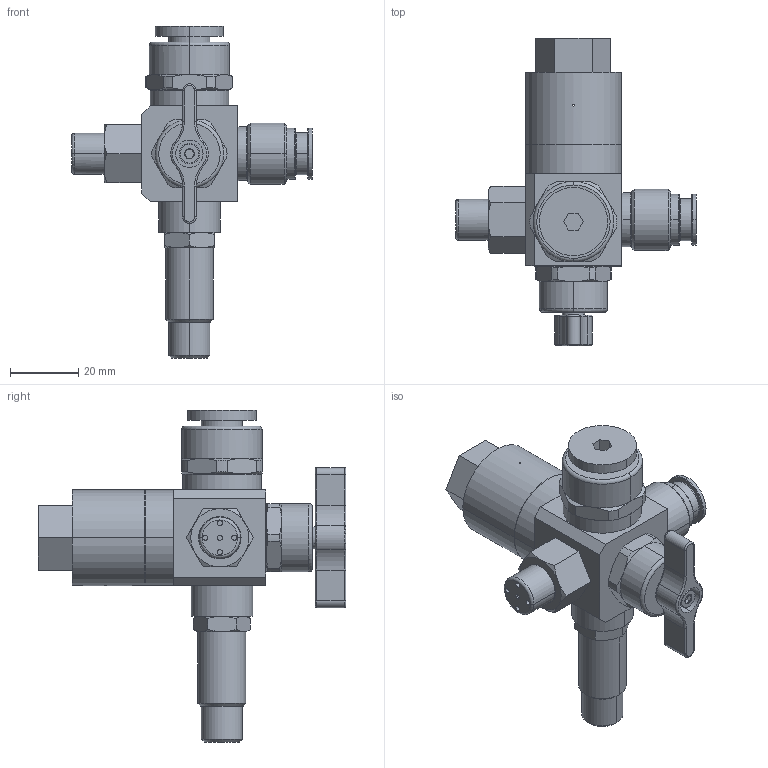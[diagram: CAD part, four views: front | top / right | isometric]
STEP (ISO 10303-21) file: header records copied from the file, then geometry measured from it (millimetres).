
FILE_DESCRIPTION((''),'2;1');
FILE_NAME('19L0001_ASM_ASM','2024-06-26T17:38:39',('hanqing'),(''),'CREO PARAMETRIC BY PTC INC, 2020033','CREO PARAMETRIC BY PTC INC, 2020033','');
FILE_SCHEMA(('CONFIG_CONTROL_DESIGN'));
Length unit declared in the file: millimetre
Products named in the file (32): 000_11_1_1; 0002_9_1_1; 020002_9_1_1; 0005_9_1_1; 0007_9_1_1; DUSAICHONGQI_9_1_1; ORING000_9_1_1_1; ORING000_9_2_1_1; ORING000_9_ASM_1_ASM_1_ASM; 020001_ASM_9_ASM_1_ASM_1_ASM; HJYF35-010003_9_1_1; 0009_ASM_10_ASM_1_1; HJYF35-01000_ASM_10_ASM_1_ASM_1_ASM; NEW00_9_1_1; TPRD00_ASM_9_ASM_1_ASM_1_ASM; 0013_9_1_1; 0014_9_1_1; 0015_9_1_1; OXINGQUAN000_9_ASM_1_1; 10001_10_1_1; QJ2582-M3-10_9_1_1; 3_QJ2963_2-97_9_1_1; 3_GB-T848_9_1_1; M30001_ASM_9_ASM_1_ASM_1_ASM; 0012_ASM_9_ASM_1_ASM_1_ASM; OXINGQUAN00_9_ASM_1_1; 0018_ASM_9_ASM_1_ASM_1_ASM; 0-0_ASM_10_ASM_1_ASM_1_ASM; DCFDUIWAIMOXING_ASM_1_ASM_1_ASM; DANCHEPINGFADUIWAIMOXING_ASM_1_ASM; 19L0001_ASM_1_ASM; 19L0001_ASM_ASM
Assembly tree (33 placements, depth 8):
  19L0001_ASM_ASM
    19L0001_ASM_1_ASM
      DANCHEPINGFADUIWAIMOXING_ASM_1_ASM
        DCFDUIWAIMOXING_ASM_1_ASM_1_ASM
          0-0_ASM_10_ASM_1_ASM_1_ASM
            000_11_1_1
            0002_9_1_1
            020001_ASM_9_ASM_1_ASM_1_ASM
              020002_9_1_1
              0005_9_1_1
              0007_9_1_1
              DUSAICHONGQI_9_1_1
              ORING000_9_ASM_1_ASM_1_ASM
                ORING000_9_1_1_1
                ORING000_9_2_1_1
            HJYF35-01000_ASM_10_ASM_1_ASM_1_ASM
              HJYF35-010003_9_1_1
              0009_ASM_10_ASM_1_1
            TPRD00_ASM_9_ASM_1_ASM_1_ASM
              NEW00_9_1_1
            0012_ASM_9_ASM_1_ASM_1_ASM
              0013_9_1_1
              0014_9_1_1
              0015_9_1_1
              OXINGQUAN000_9_ASM_1_1
              10001_10_1_1
              M30001_ASM_9_ASM_1_ASM_1_ASM
                QJ2582-M3-10_9_1_1
                3_QJ2963_2-97_9_1_1
                3_GB-T848_9_1_1
            M30001_ASM_9_ASM_1_ASM_1_ASM
              QJ2582-M3-10_9_1_1
              3_QJ2963_2-97_9_1_1
              3_GB-T848_9_1_1
            0018_ASM_9_ASM_1_ASM_1_ASM
              OXINGQUAN00_9_ASM_1_1
            DUSAICHONGQI_9_1_1
Bounding box: 70.5 x 90.1 x 97.2 mm (x, y, z)
Volume: 71385.5 mm3; surface area: 35188.4 mm2
Topology: 21 solids, 22 shells, 613 faces, 1502 edges, 993 vertices
Faces by surface type: cylinder 210, plane 189, cone 138, torus 68, revolution 8
Entity records: 17841 total; most frequent: CARTESIAN_POINT 3775, DIRECTION 3241, ORIENTED_EDGE 2636, AXIS2_PLACEMENT_3D 1407, EDGE_CURVE 1318, VERTEX_POINT 867, CIRCLE 779, EDGE_LOOP 613
